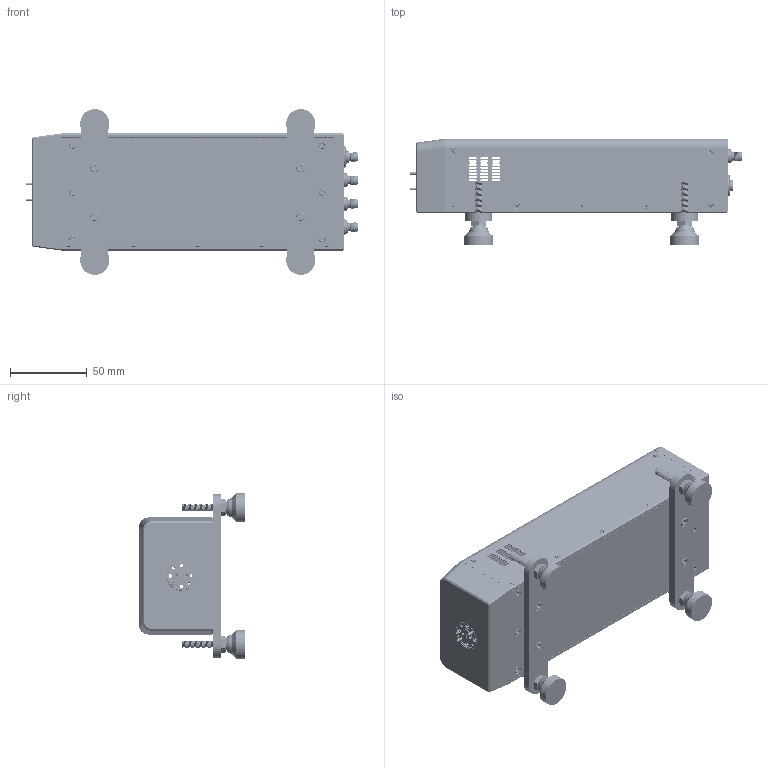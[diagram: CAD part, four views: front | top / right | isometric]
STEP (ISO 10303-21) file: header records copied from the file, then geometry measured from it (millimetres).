
FILE_DESCRIPTION (( 'STEP AP214' ), '1' );
FILE_NAME ('TO-SE-A-2.STEP', '2025-07-09T20:01:03', ( '' ), ( '' ), 'SwSTEP 2.0', 'SolidWorks 2021', '' );
FILE_SCHEMA (( 'AUTOMOTIVE_DESIGN' ));
Length unit declared in the file: inch
Products named in the file (1): TO-SE-A-2
Bounding box: 216.16 x 69.22 x 107.95 mm (x, y, z)
Volume: 234116.2 mm3; surface area: 158359.3 mm2
Topology: 104 solids, 104 shells, 5483 faces, 14701 edges, 9446 vertices
Faces by surface type: cylinder 3001, plane 1210, cone 812, bspline 440, sphere 16, torus 4
Entity records: 385258 total; most frequent: CARTESIAN_POINT 193118, ORIENTED_EDGE 29090, DIRECTION 20766, EDGE_CURVE 14545, VERTEX_POINT 9422, AXIS2_PLACEMENT_3D 7741, EDGE_LOOP 5969, UNCERTAINTY_MEASURE_WITH_UNIT 5555
